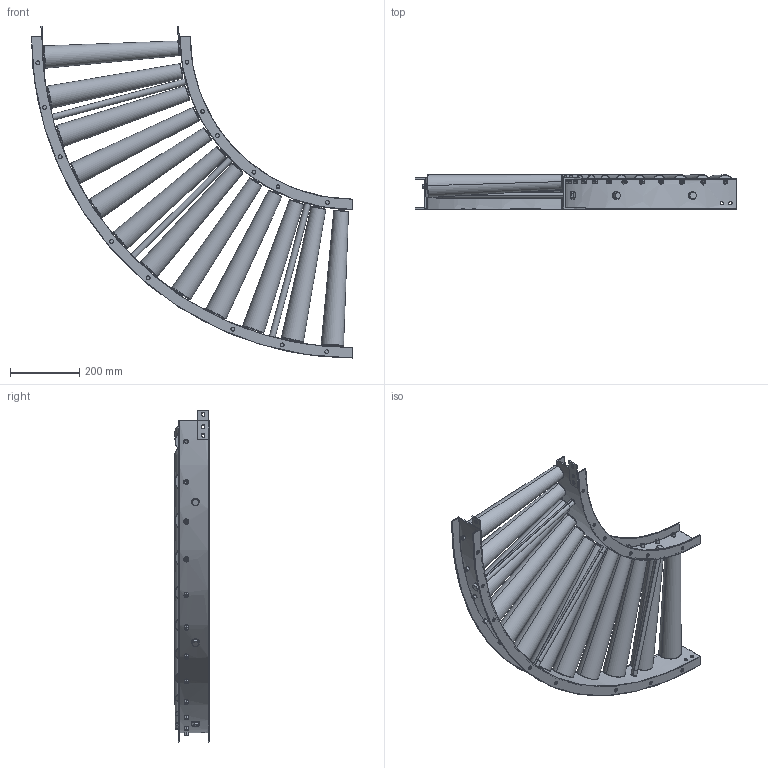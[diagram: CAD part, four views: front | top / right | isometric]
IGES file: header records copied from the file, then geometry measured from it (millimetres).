
Start section: SolidWorks IGES file using analytic representation for surfaces
Global section: file name: C:\Users\0656\Desktop\変換ツール\iges変換\S-TC500A_C.igs; native system: SolidWorks 2023; preprocessor: SolidWorks 2023; author: 0656; date: 240302.141356; units: millimetre
Bounding box: 930 x 100.18 x 961.57 mm (x, y, z)
Surface area: 2156331.4 mm2 (no closed solid volume)
Topology: 0 solids, 0 shells, 658 faces, 14260 edges, 14260 vertices
Faces by surface type: revolution 358, bspline 300
